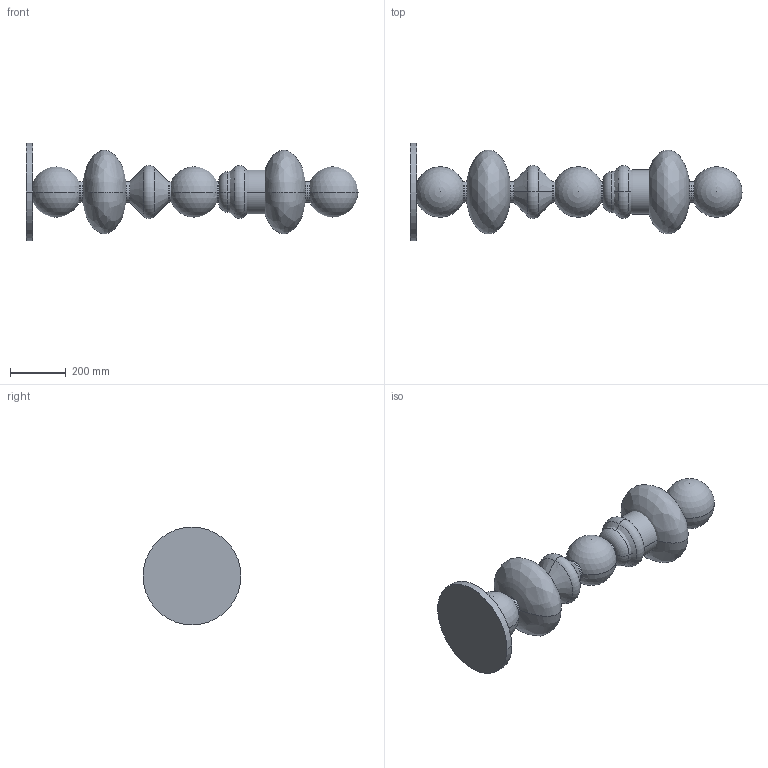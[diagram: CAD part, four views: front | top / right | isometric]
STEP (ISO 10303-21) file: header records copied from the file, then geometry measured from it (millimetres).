
FILE_DESCRIPTION (( 'STEP AP214' ), '1' );
FILE_NAME ('P1235_MAPI.STEP', '2024-02-05T11:06:12', ( '' ), ( '' ), 'SwSTEP 2.0', 'SolidWorks 2018', '' );
FILE_SCHEMA (( 'AUTOMOTIVE_DESIGN' ));
Length unit declared in the file: millimetre
Products named in the file (2): P1235_MAPI
Bounding box: 1186.1 x 350 x 350 mm (x, y, z)
Volume: 36697489.6 mm3; surface area: 1280348.1 mm2
Topology: 9 solids, 9 shells, 68 faces, 143 edges, 88 vertices
Faces by surface type: cylinder 22, plane 18, torus 10, cone 8, sphere 6, bspline 4
Entity records: 1899 total; most frequent: DIRECTION 350, CARTESIAN_POINT 349, ORIENTED_EDGE 256, AXIS2_PLACEMENT_3D 160, EDGE_CURVE 128, CIRCLE 94, VERTEX_POINT 79, EDGE_LOOP 69
